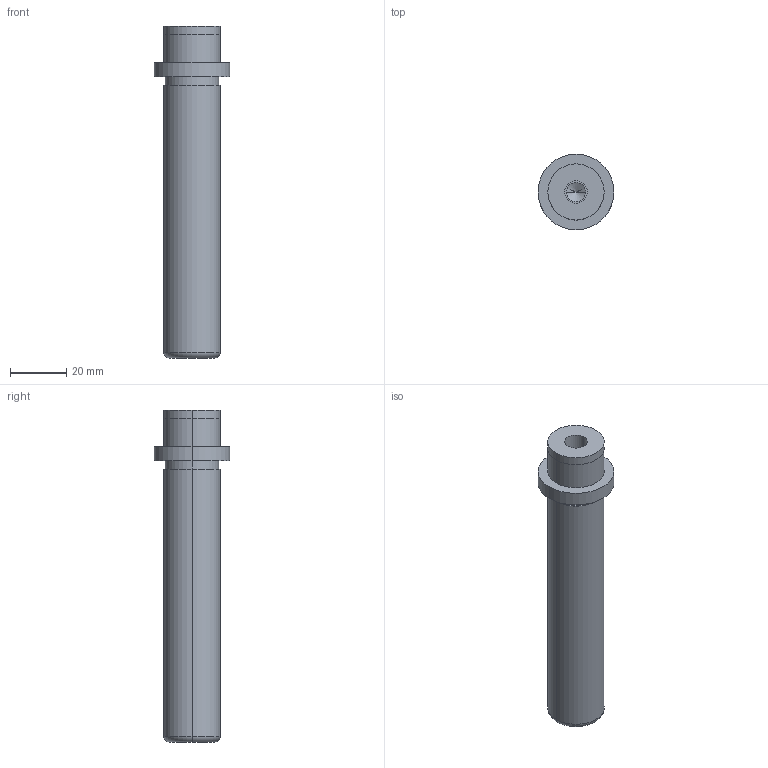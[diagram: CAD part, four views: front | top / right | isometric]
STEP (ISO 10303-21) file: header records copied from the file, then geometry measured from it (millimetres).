
FILE_DESCRIPTION(/* description */ (''),/* implementation_level */ '2;1');
FILE_NAME(/* name */ '3d_sgpw20-105_05305_r00.stp',/* time_stamp */ '2011-01-10T14:11:04+09:00',/* author */ ('MISUMI'),/* organization */ (''),/* preprocessor_version */ 'ST-DEVELOPER v11',/* originating_system */ 'UGS - NX 5.0',/* authorisation */ '');
FILE_SCHEMA (('CONFIG_CONTROL_DESIGN'));
Length unit declared in the file: millimetre
Products named in the file (1): 3d_sgpw20-105_05305_r00
Bounding box: 27 x 27 x 118 mm (x, y, z)
Volume: 36217 mm3; surface area: 9666.8 mm2
Topology: 1 solids, 1 shells, 31 faces, 64 edges, 38 vertices
Faces by surface type: cylinder 18, plane 7, cone 4, torus 2
Entity records: 890 total; most frequent: DIRECTION 162, CARTESIAN_POINT 130, ORIENTED_EDGE 120, AXIS2_PLACEMENT_3D 70, EDGE_CURVE 60, EDGE_LOOP 38, CIRCLE 38, VERTEX_POINT 38
